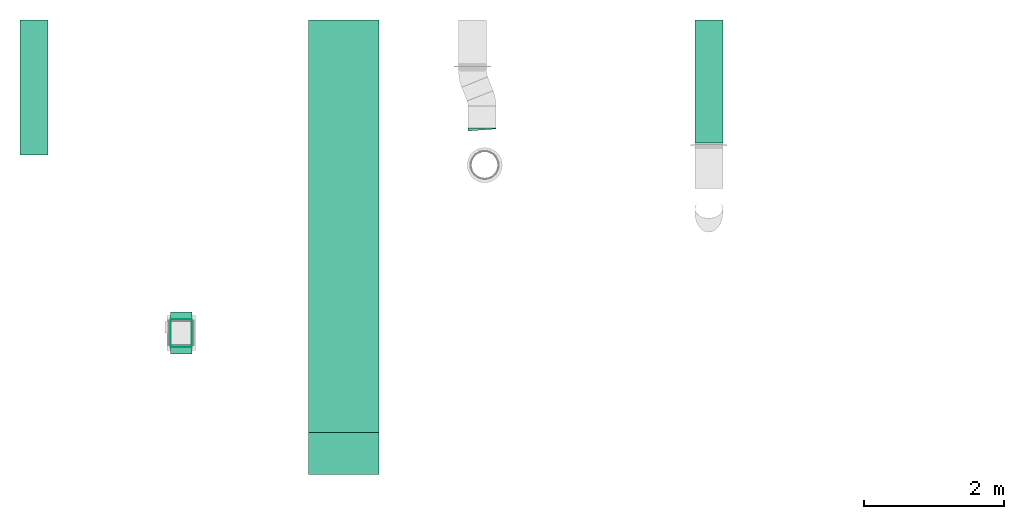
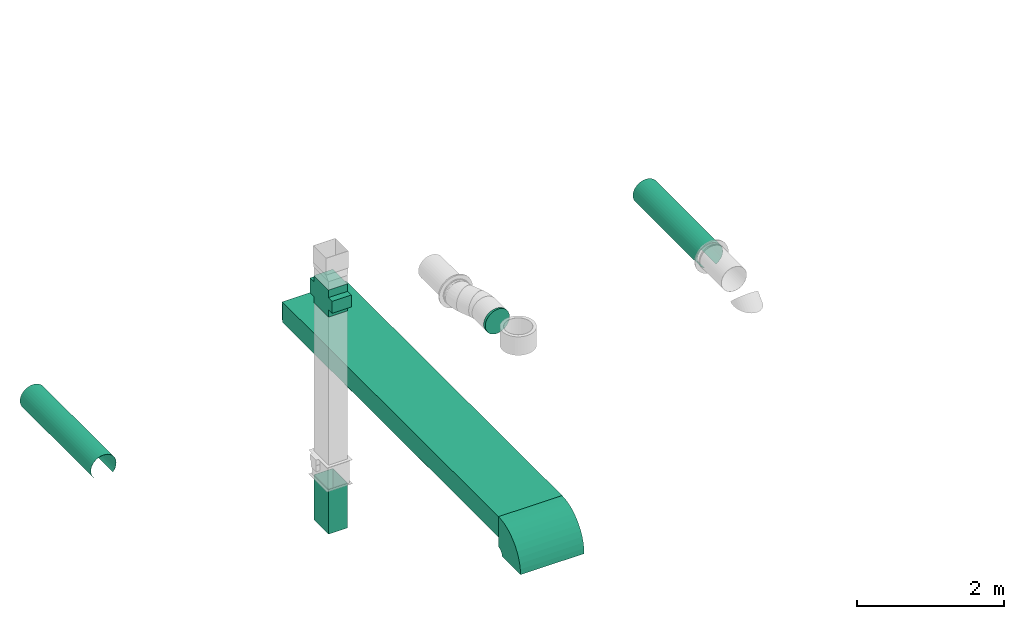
# One storey, part 11 of 14: 4 flow segments, 3 flow fittings.
"""IFC2X3 building model written with IfcOpenShell, lengths in millimetres."""

import ifcopenshell
import ifcopenshell.guid

model = None  # the IFC model being written
_history = None  # IfcOwnerHistory: only IFC2X3 demands one
_inside = {}  # id of a spatial element -> (the spatial element, [elements in it])
_under = {}  # id of a project, library or spatial element -> (it, [spatial elements below it])
_declared = {}  # id of a project -> (the project, [libraries it declares])
_typed = {}  # id of a type object -> (the type object, [elements of that type])
_made_of = {}  # id of a material, layer set ... -> (it, [elements and type objects made of it])


def new_model(schema):
    """Start an empty IFC model of exactly this schema.

    Asked for "IFC4X3", IfcOpenShell would pick the latest addendum, in which some entities
    have other attributes; the version numbers below select the first issue.
    IFC2X3 requires an IfcOwnerHistory on every rooted entity: one is made here for all.
    """
    global model, _history
    if schema == "IFC4X3":
        model = ifcopenshell.file(schema_version=(4, 3, 0, 0))
    else:
        model = ifcopenshell.file(schema=schema)
    _inside.clear()
    _under.clear()
    _declared.clear()
    _typed.clear()
    _made_of.clear()
    _history = None
    if model.schema == "IFC2X3":
        org = make("IfcOrganization", Name="unknown")
        user = make(
            "IfcPersonAndOrganization",
            ThePerson=make("IfcPerson", FamilyName="unknown"),
            TheOrganization=org,
        )
        app = make(
            "IfcApplication",
            ApplicationDeveloper=org,
            Version="unknown",
            ApplicationFullName="unknown",
            ApplicationIdentifier="unknown",
        )
        _history = make(
            "IfcOwnerHistory",
            OwningUser=user,
            OwningApplication=app,
            ChangeAction="ADDED",
            CreationDate=0,
        )
    return model


def make(cls, **values):
    """One entity of the class cls with the attributes given. An attribute that is None is left unset."""
    return model.create_entity(
        cls, **{name: value for name, value in values.items() if value is not None}
    )


def entity(cls, *values):
    """Any entity or typed value of the class cls, its attributes in the order of the schema. None: left unset."""
    e = model.create_entity(cls)
    for i, value in enumerate(values):
        if value is not None:
            e[i] = value
    return e


def rooted(cls, **values):
    """An entity with a GlobalId (a new one), such as an element, a storey or a relation."""
    return make(cls, GlobalId=ifcopenshell.guid.new(), OwnerHistory=_history, **values)


def si_unit(unit_type, name, prefix=None):
    """IfcSIUnit, for example si_unit("LENGTHUNIT", "METRE", prefix="MILLI")."""
    return make("IfcSIUnit", UnitType=unit_type, Prefix=prefix, Name=name)


def converted_unit(unit_type, name, factor, base, dimensions=None, offset=None):
    """IfcConversionBasedUnit, such as the inch: factor (a typed value) times the base unit."""
    return make(
        "IfcConversionBasedUnit"
        if offset is None
        else "IfcConversionBasedUnitWithOffset",
        ConversionOffset=offset,
        Dimensions=None
        if dimensions is None
        else entity("IfcDimensionalExponents", *dimensions),
        UnitType=unit_type,
        Name=name,
        ConversionFactor=make(
            "IfcMeasureWithUnit", ValueComponent=factor, UnitComponent=base
        ),
    )


def derived_unit(unit_type, elements):
    """IfcDerivedUnit: a product of units, each with its exponent."""
    return make(
        "IfcDerivedUnit",
        Elements=[
            make("IfcDerivedUnitElement", Unit=unit, Exponent=power)
            for unit, power in elements
        ],
        UnitType=unit_type,
    )


def assignment(units):
    """IfcUnitAssignment: the units of a project."""
    return None if units is None else make("IfcUnitAssignment", Units=units)


def point(xyz):
    """IfcCartesianPoint."""
    return None if xyz is None else make("IfcCartesianPoint", Coordinates=xyz)


def direction(xyz):
    """IfcDirection."""
    return None if xyz is None else make("IfcDirection", DirectionRatios=xyz)


def frame(location, z_axis=None, x_axis=None):
    """IfcAxis2Placement3D, a coordinate frame: its origin and axes. An axis left out is left unset."""
    return make(
        "IfcAxis2Placement3D",
        Location=point(location),
        Axis=direction(z_axis),
        RefDirection=direction(x_axis),
    )


def origin_with_axes():
    """The frame at (0, 0, 0) with the z axis (0, 0, 1) and the x axis (1, 0, 0) written out."""
    return frame((0.0, 0.0, 0.0), z_axis=(0.0, 0.0, 1.0), x_axis=(1.0, 0.0, 0.0))


def place(relative_to, where):
    """IfcLocalPlacement: puts the frame where relative to a parent placement (None: the world)."""
    return make(
        "IfcLocalPlacement", PlacementRelTo=relative_to, RelativePlacement=where
    )


def context(
    kind, dimensions, precision=None, world=None, true_north=None, identifier=None
):
    """IfcGeometricRepresentationContext, for example the 3D "Model" context."""
    return make(
        "IfcGeometricRepresentationContext",
        ContextIdentifier=identifier,
        ContextType=kind,
        CoordinateSpaceDimension=dimensions,
        Precision=precision,
        WorldCoordinateSystem=world,
        TrueNorth=true_north,
    )


def subcontext(parent, identifier, kind, view, scale=None):
    """IfcGeometricRepresentationSubContext, for example "Body" below "Model"."""
    return make(
        "IfcGeometricRepresentationSubContext",
        ContextIdentifier=identifier,
        ContextType=kind,
        ParentContext=parent,
        TargetScale=scale,
        TargetView=view,
    )


def project(units=None, contexts=None):
    """IfcProject with its units and contexts."""
    return rooted(
        "IfcProject",
        Name="project",
        RepresentationContexts=contexts,
        UnitsInContext=assignment(units),
    )


def spatial(cls, under=None, at=None, **own):
    """A site, building, storey or space (cls), placed at a placement, below another one or the project."""
    s = rooted(cls, ObjectPlacement=at, **own)
    if under is not None:
        _under.setdefault(under.id(), (under, []))[1].append(s)
    return s


def faces_of(points, faces, orient=None, outer=None):
    """IfcFace entities. A face is a list of loops; a loop is a list of indices into points, from 0.

    orient and outer hold one flag for each loop. By default every Orientation is true, the
    first loop of a face is its IfcFaceOuterBound and the others are IfcFaceBound.
    """
    made = []
    for i, loops in enumerate(faces):
        bounds = []
        for j, loop in enumerate(loops):
            is_outer = j == 0 if outer is None else outer[i][j]
            bounds.append(
                make(
                    "IfcFaceOuterBound" if is_outer else "IfcFaceBound",
                    Bound=make("IfcPolyLoop", Polygon=[points[k] for k in loop]),
                    Orientation=True if orient is None else orient[i][j],
                )
            )
        made.append(make("IfcFace", Bounds=bounds))
    return made


def open_shell(faces, orient=None, outer=None):
    """The faces of one IfcOpenShell. surface_model builds it on its shared points."""
    return ("IfcOpenShell", faces, orient, outer)


def faceted_brep(points, faces, orient=None, outer=None, voids=None):
    """IfcFacetedBrep: a solid bounded by flat faces; with voids (closed shells), ...WithVoids."""
    shared = [point(p) for p in points]
    hull = make("IfcClosedShell", CfsFaces=faces_of(shared, faces, orient, outer))
    if voids is None:
        return make("IfcFacetedBrep", Outer=hull)
    return make(
        "IfcFacetedBrepWithVoids",
        Outer=hull,
        Voids=[
            make(cls, CfsFaces=faces_of(shared, fs, o, b)) for cls, fs, o, b in voids
        ],
    )


def surface_model(cls, points, shells):
    """IfcFaceBasedSurfaceModel or IfcShellBasedSurfaceModel (cls): surfaces that need not close."""
    shared = [point(p) for p in points]
    made = [make(c, CfsFaces=faces_of(shared, fs, o, b)) for c, fs, o, b in shells]
    if cls == "IfcFaceBasedSurfaceModel":
        return make(cls, FbsmFaces=made)
    return make(cls, SbsmBoundary=made)


def shape(context_of_items, identifier, shape_type, items):
    """IfcShapeRepresentation: the items that make up one representation, for example the "Body"."""
    return make(
        "IfcShapeRepresentation",
        ContextOfItems=context_of_items,
        RepresentationIdentifier=identifier,
        RepresentationType=shape_type,
        Items=items,
    )


def source(mapping_origin, context_of_items, identifier, shape_type, items):
    """IfcRepresentationMap: a shape defined once, which mapped items show again and again."""
    return make(
        "IfcRepresentationMap",
        MappingOrigin=mapping_origin,
        MappedRepresentation=shape(context_of_items, identifier, shape_type, items),
    )


def transform(
    local_origin,
    x_axis=None,
    y_axis=None,
    z_axis=None,
    scale=None,
    scale2=None,
    scale3=None,
    uniform=True,
):
    """IfcCartesianTransformationOperator3D, or its non-uniform kind. x_axis, y_axis, z_axis: its Axis1, 2, 3."""
    if uniform:
        return make(
            "IfcCartesianTransformationOperator3D",
            Axis1=direction(x_axis),
            Axis2=direction(y_axis),
            LocalOrigin=point(local_origin),
            Scale=scale,
            Axis3=direction(z_axis),
        )
    return make(
        "IfcCartesianTransformationOperator3DnonUniform",
        Axis1=direction(x_axis),
        Axis2=direction(y_axis),
        LocalOrigin=point(local_origin),
        Scale=scale,
        Axis3=direction(z_axis),
        Scale2=scale2,
        Scale3=scale3,
    )


def mapped(mapping_source, mapping_target):
    """IfcMappedItem: shows the shape of a source again, moved by a transform."""
    return make(
        "IfcMappedItem", MappingSource=mapping_source, MappingTarget=mapping_target
    )


def made_of(thing, what):
    """Note that an element or type object is made of a material, layer set ...; save() writes the relation."""
    if what is not None:
        _made_of.setdefault(what.id(), (what, []))[1].append(thing)
    return thing


def type_object(cls, material=None, **own):
    """A type object (cls), such as IfcWallType, which elements share."""
    return made_of(rooted(cls, **own), material)


def element(
    cls,
    number,
    at=None,
    inside=None,
    cuts=None,
    type_object=None,
    material=None,
    context=None,
    identifier="Body",
    shape_type=None,
    held_by="IfcProductDefinitionShape",
    body=None,
    shapes=None,
    **own,
):
    """One element of the class cls, such as IfcWall. Its Tag is "e" and its number.

    at: its placement. inside: the storey or other place that contains it. cuts: it is an
    opening in that element (IfcRelVoidsElement). A single representation is given by context,
    identifier, shape_type and body (its items); several are given by shapes. held_by: the class
    of the entity that holds the representations. save() writes the other relations.
    """
    e = rooted(cls, Tag="e%d" % number, ObjectPlacement=at, **own)
    if body is not None:
        shapes = [shape(context, identifier, shape_type, body)]
    if shapes is not None:
        e.Representation = make(held_by, Representations=shapes)
    if inside is not None:
        _inside.setdefault(inside.id(), (inside, []))[1].append(e)
    if cuts is not None:
        rooted(
            "IfcRelVoidsElement", RelatingBuildingElement=cuts, RelatedOpeningElement=e
        )
    if type_object is not None:
        _typed.setdefault(type_object.id(), (type_object, []))[1].append(e)
    return made_of(e, material)


def aggregate(whole, parts):
    """IfcRelAggregates: a whole, such as a stair, and the parts it consists of."""
    return rooted("IfcRelAggregates", RelatingObject=whole, RelatedObjects=parts)


def save(model, path):
    """Write the relations noted so far, then the file.

    IfcRelAggregates (storeys below a building ...), IfcRelContainedInSpatialStructure (elements
    in a storey), IfcRelDefinesByType, IfcRelAssociatesMaterial and IfcRelDeclares: one each for
    every whole, place, type object, material and project.
    """
    for whole, parts in _under.values():
        aggregate(whole, parts)
    for where, things in _inside.values():
        rooted(
            "IfcRelContainedInSpatialStructure",
            RelatedElements=things,
            RelatingStructure=where,
        )
    for kind, things in _typed.values():
        rooted("IfcRelDefinesByType", RelatedObjects=things, RelatingType=kind)
    for what, things in _made_of.values():
        rooted("IfcRelAssociatesMaterial", RelatedObjects=things, RelatingMaterial=what)
    for by, libraries in _declared.values():
        rooted("IfcRelDeclares", RelatingContext=by, RelatedDefinitions=libraries)
    model.write(path)


model = new_model("IFC2X3")

# Units and contexts
model_context = context("Model", 3, precision=0.01, world=frame((0.0, 4.29681676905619e-09, 0.0)), true_north=direction((4.01073788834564e-13, 1.0)))
plan_context = context("Plan", 3, precision=0.01, world=frame((0.0, 4.29681676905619e-09, 0.0)), true_north=direction((4.01073788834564e-13, 1.0)))
body_context = subcontext(model_context, "Body", "Model", "MODEL_VIEW")
ifc_project = project(units=[converted_unit("PLANEANGLEUNIT", "DEGREE", entity("IfcPositiveLengthMeasure", 0.0174532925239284), si_unit("PLANEANGLEUNIT", "RADIAN"), dimensions=[0, 0, 0, 0, 0, 0, 0]), si_unit("AREAUNIT", "SQUARE_METRE"), si_unit("LENGTHUNIT", "METRE", prefix="MILLI"), si_unit("MASSUNIT", "GRAM", prefix="KILO"), si_unit("POWERUNIT", "WATT"), si_unit("PRESSUREUNIT", "PASCAL", prefix="KILO"), si_unit("FORCEUNIT", "NEWTON", prefix="KILO"), si_unit("ELECTRICVOLTAGEUNIT", "VOLT"), si_unit("ELECTRICCURRENTUNIT", "AMPERE"), si_unit("THERMODYNAMICTEMPERATUREUNIT", "DEGREE_CELSIUS"), si_unit("TIMEUNIT", "SECOND"), si_unit("VOLUMEUNIT", "CUBIC_METRE"), derived_unit("LINEARVELOCITYUNIT", [(si_unit("LENGTHUNIT", "METRE"), 1), (si_unit("TIMEUNIT", "SECOND"), -1)]), derived_unit("VOLUMETRICFLOWRATEUNIT", [(si_unit("VOLUMEUNIT", "CUBIC_METRE"), 1), (si_unit("TIMEUNIT", "SECOND"), -1)]), derived_unit("THERMALTRANSMITTANCEUNIT", [(si_unit("POWERUNIT", "WATT"), 1), (si_unit("THERMODYNAMICTEMPERATUREUNIT", "KELVIN"), -1), (si_unit("AREAUNIT", "SQUARE_METRE"), -1)]), derived_unit("SOUNDPRESSUREUNIT", [(si_unit("PRESSUREUNIT", "PASCAL"), 1)])], contexts=[model_context, plan_context])

# Site, building, storey
site_placement = place(None, frame((0.0, -4.29681676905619e-09, 0.0), z_axis=(0.0, 0.0, 1.0), x_axis=(1.0, 0.0, 0.0)))
site = spatial("IfcSite", under=ifc_project, at=site_placement, CompositionType="ELEMENT")
building_placement = place(site_placement, frame((0.0, 4.29681676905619e-09, 0.0), z_axis=(0.0, 0.0, 1.0), x_axis=(1.0, 0.0, 0.0)))
building = spatial("IfcBuilding", under=site, at=building_placement, Name="mc-building", CompositionType="ELEMENT")
storey_placement = place(building_placement, frame((0.0, 0.0, 205200.0), z_axis=(0.0, 0.0, 1.0), x_axis=(1.0, 0.0, 0.0)))
storey = spatial("IfcBuildingStorey", under=building, at=storey_placement, Name="Nivå D + 1,2 m", CompositionType="ELEMENT", Elevation=205200.0)

# Flow fittings
duct_fitting_type_1 = type_object("IfcDuctFittingType", Name="magirect_xbranch1_001", PredefinedType="JUNCTION")
shared_shape_1 = source(origin_with_axes(), body_context, "Body", "SurfaceModel", [
    surface_model("IfcShellBasedSurfaceModel", [(-225.0, 200.0, 150.0), (-225.0, 200.0, -150.0), (-225.0, -200.0, -150.0), (-225.0, -200.0, 150.0), (225.0, -200.0, -150.0), (225.0, 200.0, -150.0), (225.0, 200.0, 150.0), (225.0, -200.0, 150.0), (-125.0, -300.0, -150.0), (125.0, -300.0, -150.0), (125.0, -300.0, 150.0), (-125.0, -300.0, 150.0), (100.0, 300.0, -150.0), (-100.0, 300.0, -150.0), (100.0, 300.0, 150.0), (-100.0, 300.0, 150.0), (-100.0, 200.0, 150.0), (-100.0, 200.0, -150.0), (100.0, 200.0, -150.0), (100.0, 200.0, 150.0), (-125.0, -200.0, -150.0), (125.0, -200.0, -150.0), (-125.0, -200.0, 150.0), (125.0, -200.0, 150.0)], [open_shell([[[0, 1, 2]], [[2, 3, 0]], [[4, 5, 6]], [[6, 7, 4]], [[8, 9, 10]], [[10, 11, 8]], [[12, 13, 14]], [[15, 14, 13]], [[1, 0, 16]], [[16, 17, 1]], [[18, 19, 6]], [[6, 5, 18]], [[17, 13, 18]], [[1, 17, 20]], [[20, 2, 1]], [[21, 8, 20]], [[20, 17, 21]], [[12, 18, 13]], [[18, 5, 21]], [[4, 21, 5]], [[9, 8, 21]], [[21, 17, 18]], [[3, 2, 20]], [[20, 22, 3]], [[23, 21, 4]], [[4, 7, 23]], [[16, 22, 23]], [[3, 22, 0]], [[16, 0, 22]], [[15, 16, 19]], [[22, 11, 23]], [[23, 19, 16]], [[23, 7, 6]], [[6, 19, 23]], [[19, 14, 15]], [[23, 11, 10]], [[21, 23, 9]], [[10, 9, 23]], [[22, 20, 8]], [[8, 11, 22]], [[17, 16, 13]], [[15, 13, 16]], [[19, 18, 12]], [[12, 14, 19]]])]),
])
flow_fitting_1_placement = place(storey_placement, frame((325311.83391, 463035.01868, 7825.0), z_axis=(-1.0, 0.0, 0.0), x_axis=(0.0, 0.0, -1.0)))
element("IfcFlowFitting", 1, at=flow_fitting_1_placement, inside=storey, type_object=duct_fitting_type_1, Name="magirect_xbranch1_001", context=body_context, shape_type="MappedRepresentation", body=[
    mapped(shared_shape_1, transform((0.0, 0.0, 0.0), scale=1.0)),
])
duct_fitting_type_2 = type_object("IfcDuctFittingType", Name="magirect_elbow1_001", PredefinedType="BEND")
shared_shape_2 = source(origin_with_axes(), body_context, "Body", "SurfaceModel", [
    surface_model("IfcShellBasedSurfaceModel", [(-350.0, -250.0, 500.0), (-350.0, 250.0, -500.0), (-350.0, -250.0, -500.0), (-350.0, 250.0, 500.0), (250.0, 350.0, -500.0), (-250.0, 350.0, -500.0), (250.0, 350.0, 500.0), (-250.0, 350.0, 500.0), (-319.09829, 254.89434, -500.0), (-319.09829, 254.89434, 500.0), (-291.22147, 269.09831, -500.0), (-291.22147, 269.09831, 500.0), (-269.09831, 291.22147, -500.0), (-254.89434, 319.09829, -500.0), (-269.09831, 291.22147, 500.0), (-254.89434, 319.09829, 500.0), (195.7792, 100.75099, -500.0), (-100.75099, -195.7792, -500.0), (42.91644, -103.44974, -500.0), (243.89287, 264.6111, -500.0), (225.69578, 180.96047, -500.0), (-264.6111, -243.89287, -500.0), (-180.96047, -225.69578, -500.0), (-25.61551, -154.75213, -500.0), (154.75213, 25.61551, -500.0), (103.44974, -42.91644, -500.0), (-180.96047, -225.69578, 500.0), (-100.75099, -195.7792, 500.0), (-25.61551, -154.75213, 500.0), (-264.6111, -243.89287, 500.0), (42.91644, -103.44974, 500.0), (103.44974, -42.91644, 500.0), (154.75213, 25.61551, 500.0), (225.69578, 180.96047, 500.0), (195.7792, 100.75099, 500.0), (243.89287, 264.6111, 500.0)], [open_shell([[[0, 1, 2]], [[1, 0, 3]], [[4, 5, 6]], [[7, 6, 5]], [[8, 1, 9]], [[10, 8, 9]], [[3, 9, 1]], [[11, 10, 9]], [[11, 12, 10]], [[13, 12, 14]], [[5, 13, 15]], [[14, 15, 13]], [[7, 5, 15]], [[11, 14, 12]], [[12, 13, 16]], [[8, 10, 17]], [[10, 12, 18]], [[19, 5, 4]], [[19, 20, 13]], [[13, 20, 16]], [[5, 19, 13]], [[21, 1, 8]], [[22, 8, 17]], [[8, 22, 21]], [[23, 17, 10]], [[24, 12, 16]], [[25, 12, 24]], [[12, 25, 18]], [[10, 18, 23]], [[2, 1, 21]], [[26, 21, 22]], [[2, 21, 0]], [[27, 17, 23]], [[17, 26, 22]], [[18, 28, 23]], [[29, 0, 21]], [[29, 21, 26]], [[17, 27, 26]], [[23, 28, 27]], [[30, 28, 18]], [[18, 25, 30]], [[31, 25, 24]], [[16, 32, 24]], [[33, 20, 19]], [[16, 20, 34]], [[35, 19, 4]], [[24, 32, 31]], [[16, 34, 32]], [[33, 34, 20]], [[19, 35, 33]], [[4, 6, 35]], [[25, 31, 30]], [[34, 15, 14]], [[27, 11, 9]], [[30, 14, 11]], [[6, 7, 35]], [[15, 33, 35]], [[34, 33, 15]], [[15, 35, 7]], [[9, 3, 29]], [[27, 9, 26]], [[29, 26, 9]], [[11, 27, 28]], [[34, 14, 32]], [[32, 14, 31]], [[30, 31, 14]], [[28, 30, 11]], [[29, 3, 0]]])]),
])
flow_fitting_2_placement = place(storey_placement, frame((327629.37362, 461272.00056, 4087.5), z_axis=(1.0, 0.0, 0.0), x_axis=(0.0, -1.0, 0.0)))
element("IfcFlowFitting", 2, at=flow_fitting_2_placement, inside=storey, type_object=duct_fitting_type_2, Name="magirect_elbow1_001", context=body_context, shape_type="MappedRepresentation", body=[
    mapped(shared_shape_2, transform((0.0, 0.0, 0.0), scale=1.0)),
])
duct_fitting_type_3 = type_object("IfcDuctFittingType", Name="magicirc_elbow_full_radius_001", PredefinedType="BEND")
shared_shape_3 = source(origin_with_axes(), body_context, "Body", "SurfaceModel", [
    surface_model("IfcShellBasedSurfaceModel", [(-14.91401, 113.61295, -164.59677), (-14.91401, 70.92098, -187.00325), (-14.91401, 24.10734, -198.54177), (-14.91401, -70.92098, -187.00325), (-14.91401, 194.18836, -47.86313), (-14.91401, 177.09121, -92.94464), (-14.91401, 149.70215, -132.62454), (-14.91401, -113.61295, 164.59677), (-14.91401, -113.61295, -164.59677), (-14.91401, -177.09121, -92.94464), (-14.91401, -24.10734, -198.54177), (-14.91401, -149.70215, -132.62454), (-14.91401, -194.18836, -47.86313), (-14.91401, -200.0, 0.0), (-14.91401, -149.70215, 132.62454), (-14.91401, 200.0, 0.0), (-14.91401, 177.09121, 92.94464), (-14.91401, 194.18836, 47.86313), (-14.91401, 149.70215, 132.62454), (-14.91401, 70.92098, 187.00325), (-14.91401, 113.61295, 164.59677), (-14.91401, -177.09121, 92.94464), (-14.91401, -194.18836, 47.86313), (-14.91401, -70.92098, 187.00325), (-14.91401, -24.10734, 198.54177), (-14.91401, 24.10734, 198.54177), (13.07741, 25.151, -198.54177), (9.59136, 71.83466, -187.00325), (6.41224, 114.4081, -164.59677), (16.66779, -22.92981, -198.54177), (3.7248, 150.3971, -132.62454), (1.68523, 177.7101, -92.94464), (0.41207, 194.75981, -47.86313), (3.7248, 150.3971, 132.62454), (26.0204, -148.17591, 132.62454), (29.76591, -198.33411, 0.0), (20.15384, -69.61347, -187.00325), (23.33297, -112.18691, -164.59677), (28.05997, -175.48892, -92.94464), (26.0204, -148.17591, -132.62454), (29.33314, -192.53861, -47.86313), (-0.0207, 200.55529, 0.0), (0.41207, 194.75981, 47.86313), (1.68523, 177.7101, 92.94464), (6.41224, 114.4081, 164.59677), (9.59136, 71.83466, 187.00325), (28.05997, -175.48892, 92.94464), (29.33314, -192.53861, 47.86313), (16.66779, -22.92981, 198.54177), (23.33297, -112.18691, 164.59677), (20.15384, -69.61347, 187.00325), (13.07741, 25.151, 198.54177), (-7.46218, 200.13887, 0.0), (7.44147, -199.58338, 0.0)], [open_shell([[[0, 1, 2]], [[0, 2, 3]], [[4, 5, 6]], [[0, 3, 7]], [[7, 6, 0]], [[8, 9, 3]], [[2, 10, 3]], [[9, 8, 11]], [[9, 12, 13]], [[13, 14, 9]], [[7, 3, 9]], [[15, 4, 6]], [[16, 17, 15]], [[18, 16, 15]], [[19, 20, 18]], [[7, 18, 6]], [[19, 18, 7]], [[13, 21, 14]], [[21, 13, 22]], [[23, 24, 25]], [[25, 7, 23]], [[7, 9, 14]], [[25, 19, 7]], [[18, 15, 6]], [[26, 27, 28]], [[29, 26, 28]], [[30, 31, 32]], [[28, 30, 33]], [[34, 35, 28]], [[36, 35, 37]], [[36, 29, 28]], [[38, 39, 35]], [[35, 40, 38]], [[39, 37, 35]], [[28, 35, 36]], [[41, 30, 32]], [[41, 42, 43]], [[41, 43, 33]], [[33, 44, 45]], [[33, 34, 28]], [[34, 33, 45]], [[35, 46, 47]], [[34, 46, 35]], [[48, 49, 34]], [[50, 49, 48]], [[48, 34, 51]], [[45, 51, 34]], [[30, 41, 33]], [[34, 7, 14]], [[14, 21, 46]], [[23, 50, 24]], [[24, 51, 25]], [[7, 49, 23]], [[47, 21, 22]], [[33, 18, 20]], [[18, 43, 16]], [[19, 44, 20]], [[52, 17, 42]], [[52, 15, 17]], [[42, 17, 16]], [[45, 19, 25]], [[22, 13, 53]], [[49, 50, 23]], [[7, 34, 49]], [[50, 48, 24]], [[21, 47, 46]], [[14, 46, 34]], [[47, 53, 35]], [[43, 18, 33]], [[42, 16, 43]], [[41, 52, 42]], [[51, 24, 48]], [[19, 45, 44]], [[33, 20, 44]], [[45, 25, 51]], [[53, 47, 22]], [[2, 26, 10]], [[2, 1, 27]], [[31, 6, 5]], [[6, 30, 0]], [[0, 28, 1]], [[4, 32, 5]], [[53, 12, 40]], [[53, 13, 12]], [[9, 40, 12]], [[37, 8, 3]], [[9, 11, 38]], [[8, 39, 11]], [[36, 3, 10]], [[4, 15, 52]], [[52, 41, 32]], [[32, 31, 5]], [[0, 30, 28]], [[1, 28, 27]], [[6, 31, 30]], [[27, 26, 2]], [[29, 10, 26]], [[3, 36, 37]], [[39, 8, 37]], [[9, 38, 40]], [[40, 35, 53]], [[38, 11, 39]], [[29, 36, 10]], [[52, 32, 4]]])]),
])
flow_fitting_3_placement = place(storey_placement, frame((329600.36748, 465946.84562, 4100.0), z_axis=(0.000295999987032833, 0.0, 0.999999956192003), x_axis=(0.0, -1.0, 0.0)))
element("IfcFlowFitting", 3, at=flow_fitting_3_placement, inside=storey, type_object=duct_fitting_type_3, Name="magicirc_elbow_full_radius_001", context=body_context, shape_type="MappedRepresentation", body=[
    mapped(shared_shape_3, transform((0.0, 0.0, 0.0), scale=1.0)),
])

# Flow segments
duct_segment_type_1 = type_object("IfcDuctSegmentType", Name="1-REKT", PredefinedType="RIGIDSEGMENT")
flow_segment_1_placement = place(storey_placement, frame((327629.37362, 461622.00056, 4087.5), z_axis=(0.0, 0.0, 1.0), x_axis=(0.0, 1.0, 0.0)))
element("IfcFlowSegment", 4, at=flow_segment_1_placement, inside=storey, type_object=duct_segment_type_1, Name="1-REKT", context=body_context, shape_type="Brep", body=[
    faceted_brep([(0.0, -498.0, -87.5), (5877.99943999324, -498.000000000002, -87.5), (5877.99943999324, -498.0, 248.0), (0.0, -498.0, 248.0), (5877.99943999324, 498.0, 248.0), (0.0, 498.0, 248.0), (5877.99943999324, 497.999999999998, -87.5), (0.0, 498.0, -87.5), (0.0, 500.0, -87.5), (5877.99943999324, 500.0, 250.0), (0.0, 500.0, 250.0), (5877.99943999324, -500.0, 250.0), (0.0, -500.0, 250.0), (0.0, -500.0, -87.5), (5877.99943999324, -500.0, -87.5), (5877.99943999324, 500.0, -87.5)], [[[0, 1, 2, 3]], [[2, 4, 5, 3]], [[4, 6, 7, 5]], [[8, 6, 9, 10]], [[9, 11, 12, 10]], [[11, 1, 13, 12]], [[13, 0, 3, 5, 7, 8, 10, 12]], [[14, 11, 9, 15, 4, 2]], [[14, 0, 13]], [[15, 8, 7]]], orient=[[False], [False], [False], [False], [False], [False], [False], [False], [False], [False]]),
])
flow_segment_2_placement = place(storey_placement, frame((325311.83391, 463035.01868, 3570.0), z_axis=(0.0, -1.0, 0.0), x_axis=(0.0, 0.0, 1.0)))
element("IfcFlowSegment", 5, at=flow_segment_2_placement, inside=storey, type_object=duct_segment_type_1, Name="1-REKT", context=body_context, shape_type="Brep", body=[
    faceted_brep([(430.0, -148.0, -198.0), (430.0, 148.0, -198.0), (1174.7, 148.0, -198.0), (1174.7, -148.0, -198.0), (430.0, -148.0, 198.0), (1174.7, -148.0, 198.0), (430.0, 148.0, 198.0), (1174.7, 148.0, 198.0), (430.0, 150.0, -200.0), (430.0, -150.0, -200.0), (1174.7, -150.0, -200.0), (1174.7, 150.0, -200.0), (430.0, 150.0, 200.0), (1174.7, 150.0, 200.0), (430.0, -150.0, 200.0), (1174.7, -150.0, 200.0)], [[[0, 1, 2, 3]], [[4, 0, 3, 5]], [[6, 4, 5, 7]], [[1, 6, 7, 2]], [[8, 9, 10, 11]], [[12, 8, 11, 13]], [[14, 12, 13, 15]], [[9, 14, 15, 10]], [[11, 10, 15, 13], [2, 7, 5, 3]], [[12, 14, 9, 8], [4, 6, 1, 0]]], orient=[[False], [False], [False], [False], [False], [False], [False], [False], [False, False], [False, False]]),
])
duct_segment_type_2 = type_object("IfcDuctSegmentType", Name="2 - Spiro kanaler, Forsinket stål", PredefinedType="RIGIDSEGMENT")
flow_segment_3_placement = place(storey_placement, frame((332833.11956, 465746.80194, 4175.67687), z_axis=(0.0, 0.0, 1.0), x_axis=(0.0, 1.0, 0.0)))
element("IfcFlowSegment", 6, at=flow_segment_3_placement, inside=storey, type_object=duct_segment_type_2, Name="2 - Spiro kanaler, Forsinket stål", context=body_context, shape_type="Brep", body=[
    faceted_brep([(1753.19805999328, 198.0, 0.0), (1753.19805999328, 194.991935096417, -34.3823391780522), (0.0, 194.991935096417, -34.3823391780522), (0.0, 198.0, 0.0), (1753.19805999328, 186.05913891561, -67.7199883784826), (0.0, 186.05913891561, -67.7199883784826), (1753.19805999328, 171.473029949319, -99.0000000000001), (0.0, 171.473029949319, -99.0000000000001), (1753.19805999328, 151.676799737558, -127.271946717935), (0.0, 151.676799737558, -127.271946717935), (1753.19805999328, 127.271946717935, -151.676799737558), (0.0, 127.271946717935, -151.676799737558), (1753.19805999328, 99.0, -171.473029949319), (0.0, 99.0, -171.473029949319), (1753.19805999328, 89.9848359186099, -175.676869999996), (0.0, 89.9848359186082, -175.676869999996), (0.0, -89.9848359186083, -175.676869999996), (1753.19805999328, -89.984835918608, -175.676869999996), (1753.19805999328, -99.0000000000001, -171.473029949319), (0.0, -99.0000000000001, -171.473029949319), (1753.19805999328, -127.271946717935, -151.676799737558), (0.0, -127.271946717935, -151.676799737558), (1753.19805999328, -151.676799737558, -127.271946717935), (0.0, -151.676799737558, -127.271946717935), (1753.19805999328, -171.473029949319, -98.9999999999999), (0.0, -171.473029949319, -98.9999999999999), (1753.19805999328, -186.05913891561, -67.7199883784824), (0.0, -186.05913891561, -67.7199883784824), (1753.19805999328, -194.991935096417, -34.3823391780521), (0.0, -194.991935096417, -34.3823391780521), (1753.19805999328, -198.0, 2.42480066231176e-14), (0.0, -198.0, 2.42480066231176e-14), (1753.19805999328, -194.991935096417, 34.3823391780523), (0.0, -194.991935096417, 34.3823391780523), (1753.19805999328, -186.05913891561, 67.7199883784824), (0.0, -186.05913891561, 67.7199883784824), (1753.19805999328, -171.473029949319, 99.0), (0.0, -171.473029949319, 99.0), (1753.19805999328, -151.676799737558, 127.271946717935), (0.0, -151.676799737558, 127.271946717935), (1753.19805999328, -127.271946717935, 151.676799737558), (0.0, -127.271946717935, 151.676799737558), (1753.19805999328, -99.0, 171.473029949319), (0.0, -99.0, 171.473029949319), (1753.19805999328, -67.7199883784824, 186.05913891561), (0.0, -67.7199883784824, 186.05913891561), (1753.19805999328, -34.3823391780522, 194.991935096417), (0.0, -34.3823391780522, 194.991935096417), (1753.19805999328, 1.21240033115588e-14, 198.0), (0.0, 1.21240033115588e-14, 198.0), (1753.19805999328, 34.3823391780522, 194.991935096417), (0.0, 34.3823391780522, 194.991935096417), (1753.19805999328, 67.7199883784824, 186.05913891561), (0.0, 67.7199883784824, 186.05913891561), (1753.19805999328, 99.0, 171.473029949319), (0.0, 99.0, 171.473029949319), (1753.19805999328, 127.271946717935, 151.676799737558), (0.0, 127.271946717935, 151.676799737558), (1753.19805999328, 151.676799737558, 127.271946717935), (0.0, 151.676799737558, 127.271946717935), (1753.19805999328, 171.473029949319, 99.0), (0.0, 171.473029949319, 99.0), (1753.19805999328, 186.05913891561, 67.7199883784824), (0.0, 186.05913891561, 67.7199883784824), (1753.19805999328, 194.991935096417, 34.3823391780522), (0.0, 194.991935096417, 34.3823391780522), (1753.19805999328, 196.961550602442, -34.7296355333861), (1753.19805999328, 200.0, 0.0), (0.0, 200.0, 0.0), (0.0, 196.961550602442, -34.7296355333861), (1753.19805999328, 196.961550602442, 34.7296355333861), (0.0, 196.961550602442, 34.7296355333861), (1753.19805999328, 187.938524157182, 68.4040286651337), (0.0, 187.938524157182, 68.4040286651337), (1753.19805999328, 173.205080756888, 100.0), (0.0, 173.205080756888, 100.0), (1753.19805999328, 153.208888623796, 128.557521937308), (0.0, 153.208888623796, 128.557521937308), (1753.19805999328, 128.557521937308, 153.208888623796), (0.0, 128.557521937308, 153.208888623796), (1753.19805999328, 100.0, 173.205080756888), (0.0, 100.0, 173.205080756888), (1753.19805999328, 68.4040286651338, 187.938524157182), (0.0, 68.4040286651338, 187.938524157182), (1753.19805999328, 34.7296355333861, 196.961550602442), (0.0, 34.7296355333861, 196.961550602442), (1753.19805999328, 1.22464679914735e-14, 200.0), (0.0, 1.22464679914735e-14, 200.0), (1753.19805999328, -34.7296355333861, 196.961550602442), (0.0, -34.7296355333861, 196.961550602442), (1753.19805999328, -68.4040286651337, 187.938524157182), (0.0, -68.4040286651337, 187.938524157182), (1753.19805999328, -100.0, 173.205080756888), (0.0, -100.0, 173.205080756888), (1753.19805999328, -128.557521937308, 153.208888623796), (0.0, -128.557521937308, 153.208888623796), (1753.19805999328, -153.208888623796, 128.557521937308), (0.0, -153.208888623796, 128.557521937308), (1753.19805999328, -173.205080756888, 100.0), (0.0, -173.205080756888, 100.0), (1753.19805999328, -187.938524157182, 68.4040286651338), (0.0, -187.938524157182, 68.4040286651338), (1753.19805999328, -196.961550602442, 34.7296355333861), (0.0, -196.961550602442, 34.7296355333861), (1753.19805999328, -200.0, 2.44929359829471e-14), (0.0, -200.0, 2.44929359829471e-14), (1753.19805999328, -196.961550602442, -34.729635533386), (0.0, -196.961550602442, -34.729635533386), (1753.19805999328, -187.938524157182, -68.4040286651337), (0.0, -187.938524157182, -68.4040286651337), (1753.19805999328, -173.205080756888, -99.9999999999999), (0.0, -173.205080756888, -99.9999999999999), (1753.19805999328, -153.208888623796, -128.557521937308), (0.0, -153.208888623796, -128.557521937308), (1753.19805999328, -128.557521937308, -153.208888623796), (0.0, -128.557521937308, -153.208888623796), (1753.19805999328, -100.0, -173.205080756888), (0.0, -100.0, -173.205080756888), (1753.19805999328, -92.9962942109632, -175.676869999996), (0.0, -94.6992308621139, -175.676869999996), (0.0, 94.6992308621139, -175.676869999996), (1753.19805999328, 92.9962942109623, -175.676869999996), (1753.19805999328, 100.0, -173.205080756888), (0.0, 100.0, -173.205080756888), (1753.19805999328, 128.557521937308, -153.208888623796), (0.0, 128.557521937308, -153.208888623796), (1753.19805999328, 153.208888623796, -128.557521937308), (0.0, 153.208888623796, -128.557521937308), (1753.19805999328, 173.205080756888, -100.0), (0.0, 173.205080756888, -100.0), (1753.19805999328, 187.938524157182, -68.4040286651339), (0.0, 187.938524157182, -68.4040286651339), (1753.19805999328, -94.699230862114, -175.676869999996), (1753.19805999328, 94.6992308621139, -175.676869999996)], [[[0, 1, 2, 3]], [[1, 4, 5, 2]], [[4, 6, 7, 5]], [[6, 8, 9, 7]], [[8, 10, 11, 9]], [[10, 12, 13, 11]], [[12, 14, 15, 13]], [[16, 17, 18, 19]], [[18, 20, 21, 19]], [[20, 22, 23, 21]], [[22, 24, 25, 23]], [[24, 26, 27, 25]], [[26, 28, 29, 27]], [[28, 30, 31, 29]], [[30, 32, 33, 31]], [[32, 34, 35, 33]], [[34, 36, 37, 35]], [[36, 38, 39, 37]], [[38, 40, 41, 39]], [[40, 42, 43, 41]], [[42, 44, 45, 43]], [[44, 46, 47, 45]], [[46, 48, 49, 47]], [[48, 50, 51, 49]], [[50, 52, 53, 51]], [[52, 54, 55, 53]], [[54, 56, 57, 55]], [[56, 58, 59, 57]], [[58, 60, 61, 59]], [[60, 62, 63, 61]], [[62, 64, 65, 63]], [[64, 0, 3, 65]], [[66, 67, 68, 69]], [[67, 70, 71, 68]], [[70, 72, 73, 71]], [[72, 74, 75, 73]], [[74, 76, 77, 75]], [[76, 78, 79, 77]], [[78, 80, 81, 79]], [[80, 82, 83, 81]], [[82, 84, 85, 83]], [[84, 86, 87, 85]], [[86, 88, 89, 87]], [[88, 90, 91, 89]], [[90, 92, 93, 91]], [[92, 94, 95, 93]], [[94, 96, 97, 95]], [[96, 98, 99, 97]], [[98, 100, 101, 99]], [[100, 102, 103, 101]], [[102, 104, 105, 103]], [[104, 106, 107, 105]], [[106, 108, 109, 107]], [[108, 110, 111, 109]], [[110, 112, 113, 111]], [[112, 114, 115, 113]], [[114, 116, 117, 115]], [[116, 118, 119, 117]], [[120, 121, 122, 123]], [[122, 124, 125, 123]], [[124, 126, 127, 125]], [[126, 128, 129, 127]], [[128, 130, 131, 129]], [[130, 66, 69, 131]], [[119, 16, 19, 21, 23, 25, 27, 29, 31, 33, 35, 37, 39, 41, 43, 45, 47, 49, 51, 53, 55, 57, 59, 61, 63, 65, 3, 2, 5, 7, 9, 11, 13, 15, 120, 123, 125, 127, 129, 131, 69, 68, 71, 73, 75, 77, 79, 81, 83, 85, 87, 89, 91, 93, 95, 97, 99, 101, 103, 105, 107, 109, 111, 113, 115, 117]], [[132, 116, 114, 112, 110, 108, 106, 104, 102, 100, 98, 96, 94, 92, 90, 88, 86, 84, 82, 80, 78, 76, 74, 72, 70, 67, 66, 130, 128, 126, 124, 122, 133, 14, 12, 10, 8, 6, 4, 1, 0, 64, 62, 60, 58, 56, 54, 52, 50, 48, 46, 44, 42, 40, 38, 36, 34, 32, 30, 28, 26, 24, 22, 20, 18, 17]], [[133, 120, 15, 14]], [[17, 16, 119, 132]]], orient=[[False], [False], [False], [False], [False], [False], [False], [False], [False], [False], [False], [False], [False], [False], [False], [False], [False], [False], [False], [False], [False], [False], [False], [False], [False], [False], [False], [False], [False], [False], [False], [False], [False], [False], [False], [False], [False], [False], [False], [False], [False], [False], [False], [False], [False], [False], [False], [False], [False], [False], [False], [False], [False], [False], [False], [False], [False], [False], [False], [False], [False], [False], [False], [False], [False], [False], [False], [False]]),
])
flow_segment_4_placement = place(storey_placement, frame((323213.35653, 465575.49995, 4135.0), z_axis=(0.0, 0.0, 1.0), x_axis=(0.0, 1.0, 0.0)))
element("IfcFlowSegment", 7, at=flow_segment_4_placement, inside=storey, type_object=duct_segment_type_2, Name="2 - Spiro kanaler, Forsinket stål", context=body_context, shape_type="Brep", body=[
    faceted_brep([(1924.50004999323, 198.0, 0.0), (1924.50004999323, 194.991935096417, -34.3823391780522), (0.0, 194.991935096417, -34.3823391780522), (0.0, 198.0, 0.0), (1924.50004999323, 186.05913891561, -67.7199883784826), (0.0, 186.05913891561, -67.7199883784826), (1924.50004999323, 171.473029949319, -99.0000000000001), (0.0, 171.473029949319, -99.0000000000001), (1924.50004999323, 151.676799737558, -127.271946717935), (0.0, 151.676799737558, -127.271946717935), (1924.50004999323, 146.265558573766, -135.0), (0.0, 143.948746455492, -135.0), (0.0, -143.948746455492, -135.0), (1924.50004999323, -143.948746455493, -135.0), (1924.50004999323, -151.676799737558, -127.271946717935), (0.0, -151.676799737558, -127.271946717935), (1924.50004999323, -171.473029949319, -98.9999999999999), (0.0, -171.473029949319, -98.9999999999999), (1924.50004999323, -186.05913891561, -67.7199883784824), (0.0, -186.05913891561, -67.7199883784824), (1924.50004999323, -194.991935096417, -34.3823391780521), (0.0, -194.991935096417, -34.3823391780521), (1924.50004999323, -198.0, 2.42480066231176e-14), (0.0, -198.0, 2.42480066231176e-14), (1924.50004999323, -194.991935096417, 34.3823391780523), (0.0, -194.991935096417, 34.3823391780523), (1924.50004999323, -186.05913891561, 67.7199883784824), (0.0, -186.05913891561, 67.7199883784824), (1924.50004999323, -171.473029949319, 99.0), (0.0, -171.473029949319, 99.0), (1924.50004999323, -151.676799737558, 127.271946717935), (0.0, -151.676799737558, 127.271946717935), (1924.50004999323, -127.271946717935, 151.676799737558), (0.0, -127.271946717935, 151.676799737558), (1924.50004999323, -99.0, 171.473029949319), (0.0, -99.0, 171.473029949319), (1924.50004999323, -67.7199883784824, 186.05913891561), (0.0, -67.7199883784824, 186.05913891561), (1924.50004999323, -34.3823391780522, 194.991935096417), (0.0, -34.3823391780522, 194.991935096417), (1924.50004999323, 1.21240033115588e-14, 198.0), (0.0, 1.21240033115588e-14, 198.0), (1924.50004999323, 34.3823391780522, 194.991935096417), (0.0, 34.3823391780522, 194.991935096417), (1924.50004999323, 67.7199883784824, 186.05913891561), (0.0, 67.7199883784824, 186.05913891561), (1924.50004999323, 99.0, 171.473029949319), (0.0, 99.0, 171.473029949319), (1924.50004999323, 127.271946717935, 151.676799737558), (0.0, 127.271946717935, 151.676799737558), (1924.50004999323, 151.676799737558, 127.271946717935), (0.0, 151.676799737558, 127.271946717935), (1924.50004999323, 171.473029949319, 99.0), (0.0, 171.473029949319, 99.0), (1924.50004999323, 186.05913891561, 67.7199883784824), (0.0, 186.05913891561, 67.7199883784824), (1924.50004999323, 194.991935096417, 34.3823391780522), (0.0, 194.991935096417, 34.3823391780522), (1924.50004999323, 196.961550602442, -34.7296355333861), (1924.50004999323, 200.0, 0.0), (0.0, 200.0, 0.0), (0.0, 196.961550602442, -34.7296355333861), (1924.50004999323, 196.961550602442, 34.7296355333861), (0.0, 196.961550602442, 34.7296355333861), (1924.50004999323, 187.938524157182, 68.4040286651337), (0.0, 187.938524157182, 68.4040286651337), (1924.50004999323, 173.205080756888, 100.0), (0.0, 173.205080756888, 100.0), (1924.50004999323, 153.208888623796, 128.557521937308), (0.0, 153.208888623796, 128.557521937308), (1924.50004999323, 128.557521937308, 153.208888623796), (0.0, 128.557521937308, 153.208888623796), (1924.50004999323, 100.0, 173.205080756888), (0.0, 100.0, 173.205080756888), (1924.50004999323, 68.4040286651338, 187.938524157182), (0.0, 68.4040286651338, 187.938524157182), (1924.50004999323, 34.7296355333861, 196.961550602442), (0.0, 34.7296355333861, 196.961550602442), (1924.50004999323, 1.22464679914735e-14, 200.0), (0.0, 1.22464679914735e-14, 200.0), (1924.50004999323, -34.7296355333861, 196.961550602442), (0.0, -34.7296355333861, 196.961550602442), (1924.50004999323, -68.4040286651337, 187.938524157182), (0.0, -68.4040286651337, 187.938524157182), (1924.50004999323, -100.0, 173.205080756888), (0.0, -100.0, 173.205080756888), (1924.50004999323, -128.557521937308, 153.208888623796), (0.0, -128.557521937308, 153.208888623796), (1924.50004999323, -153.208888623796, 128.557521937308), (0.0, -153.208888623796, 128.557521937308), (1924.50004999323, -173.205080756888, 100.0), (0.0, -173.205080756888, 100.0), (1924.50004999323, -187.938524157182, 68.4040286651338), (0.0, -187.938524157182, 68.4040286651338), (1924.50004999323, -196.961550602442, 34.7296355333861), (0.0, -196.961550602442, 34.7296355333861), (1924.50004999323, -200.0, 2.44929359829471e-14), (0.0, -200.0, 2.44929359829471e-14), (1924.50004999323, -196.961550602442, -34.729635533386), (0.0, -196.961550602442, -34.729635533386), (1924.50004999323, -187.938524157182, -68.4040286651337), (0.0, -187.938524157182, -68.4040286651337), (1924.50004999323, -173.205080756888, -99.9999999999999), (0.0, -173.205080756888, -99.9999999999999), (1924.50004999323, -153.208888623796, -128.557521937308), (0.0, -153.208888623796, -128.557521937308), (1924.50004999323, -148.697816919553, -135.0), (0.0, -146.766410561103, -135.0), (0.0, 146.766410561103, -135.0), (1924.50004999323, 153.208888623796, -128.557521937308), (0.0, 153.208888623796, -128.557521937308), (1924.50004999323, 173.205080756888, -100.0), (0.0, 173.205080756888, -100.0), (1924.50004999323, 187.938524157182, -68.4040286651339), (0.0, 187.938524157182, -68.4040286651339), (1924.50004999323, -146.766410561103, -135.0), (1924.50004999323, 146.766410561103, -135.0), (1924.50004999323, 143.948746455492, -135.0)], [[[0, 1, 2, 3]], [[1, 4, 5, 2]], [[4, 6, 7, 5]], [[6, 8, 9, 7]], [[8, 10, 11, 9]], [[12, 13, 14, 15]], [[14, 16, 17, 15]], [[16, 18, 19, 17]], [[18, 20, 21, 19]], [[20, 22, 23, 21]], [[22, 24, 25, 23]], [[24, 26, 27, 25]], [[26, 28, 29, 27]], [[28, 30, 31, 29]], [[30, 32, 33, 31]], [[32, 34, 35, 33]], [[34, 36, 37, 35]], [[36, 38, 39, 37]], [[38, 40, 41, 39]], [[40, 42, 43, 41]], [[42, 44, 45, 43]], [[44, 46, 47, 45]], [[46, 48, 49, 47]], [[48, 50, 51, 49]], [[50, 52, 53, 51]], [[52, 54, 55, 53]], [[54, 56, 57, 55]], [[56, 0, 3, 57]], [[58, 59, 60, 61]], [[59, 62, 63, 60]], [[62, 64, 65, 63]], [[64, 66, 67, 65]], [[66, 68, 69, 67]], [[68, 70, 71, 69]], [[70, 72, 73, 71]], [[72, 74, 75, 73]], [[74, 76, 77, 75]], [[76, 78, 79, 77]], [[78, 80, 81, 79]], [[80, 82, 83, 81]], [[82, 84, 85, 83]], [[84, 86, 87, 85]], [[86, 88, 89, 87]], [[88, 90, 91, 89]], [[90, 92, 93, 91]], [[92, 94, 95, 93]], [[94, 96, 97, 95]], [[96, 98, 99, 97]], [[98, 100, 101, 99]], [[100, 102, 103, 101]], [[102, 104, 105, 103]], [[104, 106, 107, 105]], [[108, 10, 109, 110]], [[109, 111, 112, 110]], [[111, 113, 114, 112]], [[113, 58, 61, 114]], [[107, 12, 15, 17, 19, 21, 23, 25, 27, 29, 31, 33, 35, 37, 39, 41, 43, 45, 47, 49, 51, 53, 55, 57, 3, 2, 5, 7, 9, 11, 108, 110, 112, 114, 61, 60, 63, 65, 67, 69, 71, 73, 75, 77, 79, 81, 83, 85, 87, 89, 91, 93, 95, 97, 99, 101, 103, 105]], [[115, 104, 102, 100, 98, 96, 94, 92, 90, 88, 86, 84, 82, 80, 78, 76, 74, 72, 70, 68, 66, 64, 62, 59, 58, 113, 111, 109, 116, 117, 8, 6, 4, 1, 0, 56, 54, 52, 50, 48, 46, 44, 42, 40, 38, 36, 34, 32, 30, 28, 26, 24, 22, 20, 18, 16, 14, 13]], [[116, 108, 11, 117]], [[13, 12, 107, 115]]], orient=[[False], [False], [False], [False], [False], [False], [False], [False], [False], [False], [False], [False], [False], [False], [False], [False], [False], [False], [False], [False], [False], [False], [False], [False], [False], [False], [False], [False], [False], [False], [False], [False], [False], [False], [False], [False], [False], [False], [False], [False], [False], [False], [False], [False], [False], [False], [False], [False], [False], [False], [False], [False], [False], [False], [False], [False], [False], [False], [False], [False]]),
])

save(model, "model.ifc")
